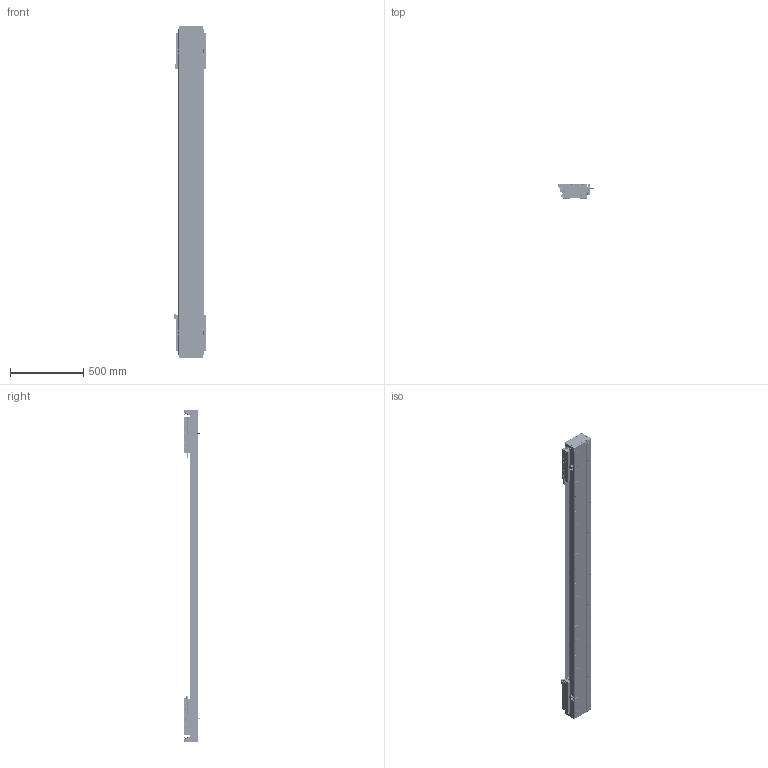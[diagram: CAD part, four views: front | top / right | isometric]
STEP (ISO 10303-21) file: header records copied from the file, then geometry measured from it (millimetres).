
FILE_DESCRIPTION (( 'STEP AP203' ), '1' );
FILE_NAME ('DA-C165-2-C3-T1640-C010-0.2 直线电机.STEP', '2023-06-13T09:22:42', ( '微软用户' ), ( '微软中国' ), 'SwSTEP 2.0', 'SolidWorks 2019', '' );
FILE_SCHEMA (( 'CONFIG_CONTROL_DESIGN' ));
Length unit declared in the file: millimetre
Products named in the file (22): 复件 DA165-GYP-00 光电感应片^DA-C165-C3-T-C010-0.2-N 直线电机; 复件 DA126-GYP-ZJ-00 中间光电感应片^DA-C165-C3-T-C010-0.2-N 直线电机; 复件 XD-U-02L 磁栅尺^DA-C165-C3-T-C010-0.2-N 直线电机_T; 葩璃 CKM03-W075-C1C2-TP-3.0^DA-C165-C3-T-C010-0.2-N 眻盄萇儂; IU-CU165-L 菁釱絳寢; 复件 DA165-GDYK-00 钢带压块^复件 CU165钢带组件_DA-C165-C3-T-C010-0.2-N 直线电机; 珨极趙賑雄怢啣C3-wf; 复件 DA165-GD-DG-H-00 端盖^复件 CU165钢带组件_DA-C165-C3-T-C010-0.2-N 直线电机; 复件 CU165 底座^IU-CU165-L 底座导轨_L2220; DA-C165-2-C3-T1640-C010-0.2 眻盄萇儂; 复件 DA165-GDLK-00 钢带拉块^复件 CU165钢带组件_DA-C165-C3-T-C010-0.2-N 直线电机; 复件 DA165-GD-1860-002-00 钢带盖板^复件 CU165钢带组件_DA-C165-C3-T-C010-0.2-N 直线电机; 葩璃 PM-Y45^DA-C165-C3-T-C010-0.2-N 眻盄萇儂; 复件 66338-1000-006-00 光电感应块^DA-C165-C3-T-C010-0.2-N 直线电机; 葩璃 CKM01-W075-TRL^DA-C165-C3-T-C010-0.2-N 眻盄萇儂; 复件 DKW-HXJ-JY-00 缓冲橡胶^DA-C165-C3-T-C010-0.2-N 直线电机; 复件 DA95-HXJ-00 缓冲橡胶^DA-C165-C3-T-C010-0.2-N 直线电机; 葩璃 PM-T45^DA-C165-C3-T-C010-0.2-N 眻盄萇儂; 复件 六角薄螺母 M3^DA-C165-C3-T-C010-0.2-N 直线电机_GB_FASTENER_NUT_STNAB M3-C; 葩璃 DA95-GT-T-00^IU-CU165-L 菁釱絳寢_T; 复件 CU165钢带组件^DA-C165-C3-T-C010-0.2-N 直线电机; 复件 DMA-010-0.2 读数头^DA-C165-C3-T-C010-0.2-N 直线电机
Assembly tree (45 placements, depth 3):
  DA-C165-2-C3-T1640-C010-0.2 眻盄萇儂
    IU-CU165-L 菁釱絳寢
      复件 CU165 底座^IU-CU165-L 底座导轨_L2220
      葩璃 DA95-GT-T-00^IU-CU165-L 菁釱絳寢_T  x4
    复件 XD-U-02L 磁栅尺^DA-C165-C3-T-C010-0.2-N 直线电机_T
    葩璃 PM-T45^DA-C165-C3-T-C010-0.2-N 眻盄萇儂  x4
    葩璃 CKM01-W075-TRL^DA-C165-C3-T-C010-0.2-N 眻盄萇儂
    复件 CU165钢带组件^DA-C165-C3-T-C010-0.2-N 直线电机
      复件 DA165-GD-DG-H-00 端盖^复件 CU165钢带组件_DA-C165-C3-T-C010-0.2-N 直线电机  x2
      复件 DA165-GDYK-00 钢带压块^复件 CU165钢带组件_DA-C165-C3-T-C010-0.2-N 直线电机  x2
      复件 DA165-GD-1860-002-00 钢带盖板^复件 CU165钢带组件_DA-C165-C3-T-C010-0.2-N 直线电机
      复件 DA165-GDLK-00 钢带拉块^复件 CU165钢带组件_DA-C165-C3-T-C010-0.2-N 直线电机  x2
    复件 DA95-HXJ-00 缓冲橡胶^DA-C165-C3-T-C010-0.2-N 直线电机  x4
    复件 DMA-010-0.2 读数头^DA-C165-C3-T-C010-0.2-N 直线电机  x2
    复件 DA165-GYP-00 光电感应片^DA-C165-C3-T-C010-0.2-N 直线电机  x2
    复件 66338-1000-006-00 光电感应块^DA-C165-C3-T-C010-0.2-N 直线电机
    葩璃 PM-Y45^DA-C165-C3-T-C010-0.2-N 眻盄萇儂
    复件 DA126-GYP-ZJ-00 中间光电感应片^DA-C165-C3-T-C010-0.2-N 直线电机
    葩璃 CKM03-W075-C1C2-TP-3.0^DA-C165-C3-T-C010-0.2-N 眻盄萇儂  x2
    复件 DKW-HXJ-JY-00 缓冲橡胶^DA-C165-C3-T-C010-0.2-N 直线电机  x2
    复件 六角薄螺母 M3^DA-C165-C3-T-C010-0.2-N 直线电机_GB_FASTENER_NUT_STNAB M3-C  x8
    珨极趙賑雄怢啣C3-wf  x2
Bounding box: 247.2 x 111.45 x 2260 mm (x, y, z)
Volume: 15512651.6 mm3; surface area: 4301410.6 mm2
Topology: 121 solids, 221 shells, 6385 faces, 17244 edges, 10696 vertices
Faces by surface type: cylinder 3310, plane 2007, cone 980, torus 80, sphere 8
Entity records: 139552 total; most frequent: CARTESIAN_POINT 36381, ORIENTED_EDGE 21072, DIRECTION 20876, EDGE_CURVE 10536, AXIS2_PLACEMENT_3D 7949, VERTEX_POINT 6850, VECTOR 4978, LINE 4978
